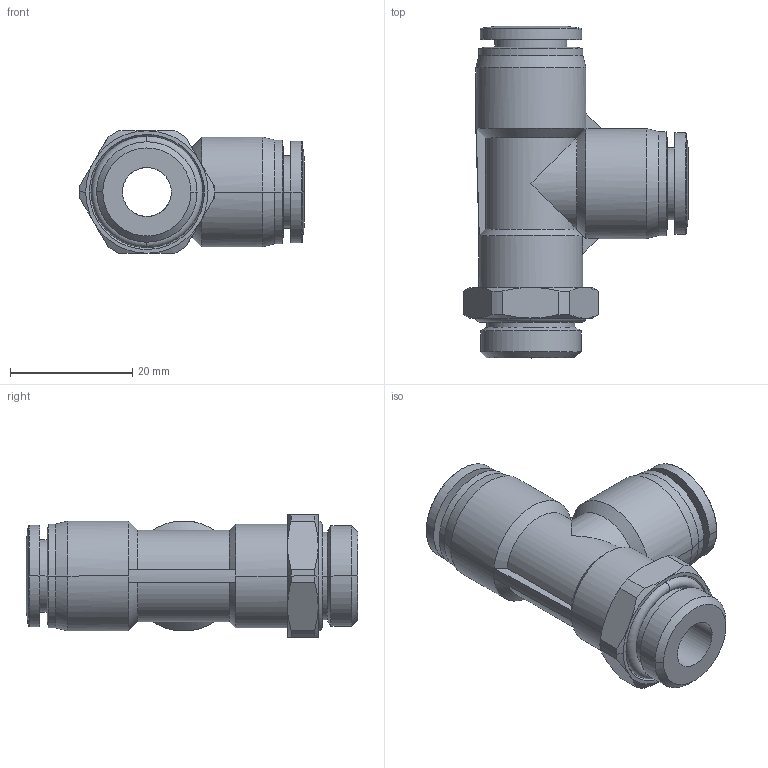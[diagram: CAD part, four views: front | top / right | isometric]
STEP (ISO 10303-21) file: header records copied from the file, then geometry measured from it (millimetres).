
FILE_DESCRIPTION (( 'STEP AP203' ), '1' );
FILE_NAME ('FLT10-03.STEP', '2020-05-12T14:18:18', ( '' ), ( '' ), 'SwSTEP 2.0', 'SolidWorks 2019', '' );
FILE_SCHEMA (( 'CONFIG_CONTROL_DESIGN' ));
Length unit declared in the file: millimetre
Products named in the file (1): FLT10-03
Bounding box: 36.75 x 54.25 x 20 mm (x, y, z)
Surface area: 7576.6 mm2 (no closed solid volume)
Topology: 0 solids, 4 shells, 122 faces, 302 edges, 191 vertices
Faces by surface type: cylinder 44, cone 38, plane 27, torus 8, bspline 5
Entity records: 6111 total; most frequent: CARTESIAN_POINT 3658, ORIENTED_EDGE 588, DIRECTION 307, EDGE_CURVE 302, B_SPLINE_CURVE_WITH_KNOTS 227, VERTEX_POINT 191, EDGE_LOOP 135, AXIS2_PLACEMENT_3D 126
